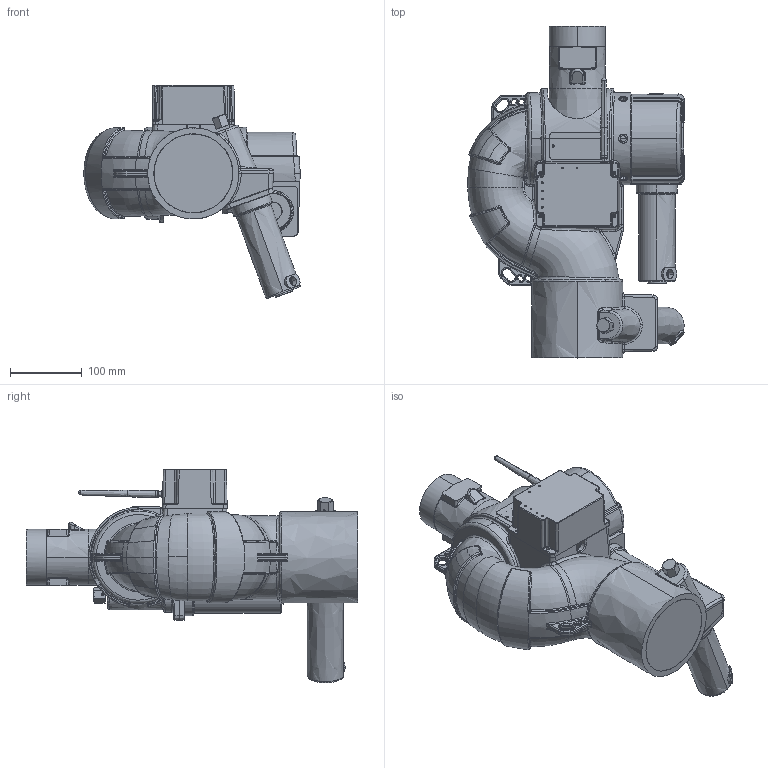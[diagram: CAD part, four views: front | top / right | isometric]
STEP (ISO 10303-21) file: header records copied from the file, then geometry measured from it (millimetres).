
FILE_DESCRIPTION (( 'STEP AP203' ), '1' );
FILE_NAME ('7200 HD - No BaseDD.STEP', '2013-10-29T12:56:24', ( 'eb' ), ( '' ), 'SwSTEP 2.0', 'SolidWorks 2013', '' );
FILE_SCHEMA (( 'CONFIG_CONTROL_DESIGN' ));
Products named in the file (1): 7200 HD - No BaseDD
Bounding box: 301.35 x 462.25 x 297.16 mm (x, y, z)
Surface area: 612299.7 mm2 (no closed solid volume)
Topology: 0 solids, 22 shells, 1956 faces, 4812 edges, 2836 vertices
Faces by surface type: bspline 1477, plane 377, cylinder 57, cone 45
Entity records: 268564 total; most frequent: CARTESIAN_POINT 236088, ORIENTED_EDGE 9347, EDGE_CURVE 4705, VERTEX_POINT 2835, DIRECTION 2780, EDGE_LOOP 2072, B_SPLINE_CURVE_WITH_KNOTS 2053, ADVANCED_FACE 1955
